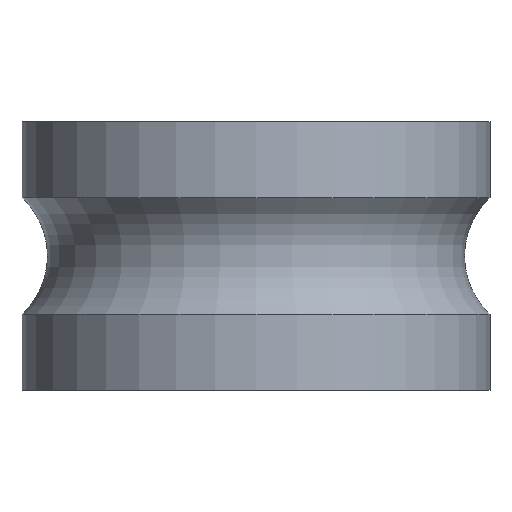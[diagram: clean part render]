
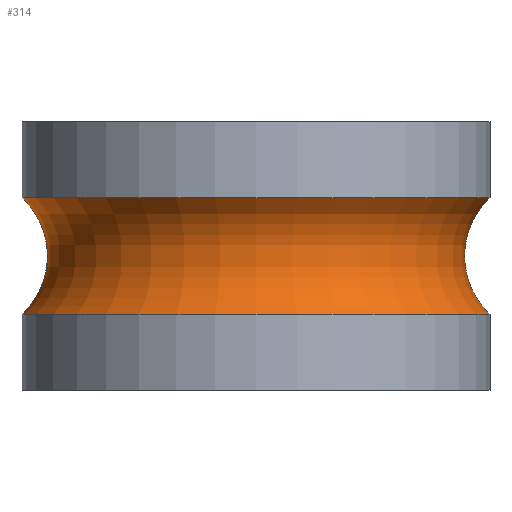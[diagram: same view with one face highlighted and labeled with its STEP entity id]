
A CAD part, front view. The second image highlights one B-rep face of the part: STEP entity #314.
In plain terms, the highlighted toroidal (fillet/blend) face has major radius 7.5 mm and minor radius 2.064 mm.
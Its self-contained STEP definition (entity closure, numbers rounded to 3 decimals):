
#5=CARTESIAN_POINT('',(6.1,0.0,139.984));
#6=CARTESIAN_POINT('',(-6.1,0.0,139.984));
#7=CARTESIAN_POINT('',(5.436,0.0,141.5));
#8=CARTESIAN_POINT('',(-5.436,0.0,141.5));
#9=CARTESIAN_POINT('',(6.1,0.0,143.016));
#10=CARTESIAN_POINT('',(-6.1,0.0,143.016));
#45=CARTESIAN_POINT('',(0.0,0.0,139.984));
#46=DIRECTION('',(0.0,0.0,1.0));
#47=DIRECTION('',(1.0,0.0,0.0));
#48=AXIS2_PLACEMENT_3D('',#45,#46,#47);
#49=CIRCLE('',#48,6.1);
#50=TRIMMED_CURVE('',#49,(#6),(#5),.T.,.CARTESIAN.);
#57=CARTESIAN_POINT('',(0.0,0.0,143.016));
#58=DIRECTION('',(0.0,0.0,1.0));
#59=DIRECTION('',(1.0,0.0,0.0));
#60=AXIS2_PLACEMENT_3D('',#57,#58,#59);
#61=CIRCLE('',#60,6.1);
#62=TRIMMED_CURVE('',#61,(#10),(#9),.T.,.CARTESIAN.);
#99=CARTESIAN_POINT('',(6.1,0.0,139.984));
#100=CARTESIAN_POINT('',(5.436,0.0,140.596));
#101=CARTESIAN_POINT('',(5.436,0.0,141.5));
#102=(BOUNDED_CURVE()B_SPLINE_CURVE(2,(#99,#100,#101),.UNSPECIFIED.,.F.,.F.)B_SPLINE_CURVE_WITH_KNOTS((3,3),(0.,1.),.PIECEWISE_BEZIER_KNOTS.)CURVE()GEOMETRIC_REPRESENTATION_ITEM()RATIONAL_B_SPLINE_CURVE((1.0,0.916,1.0))REPRESENTATION_ITEM(''));
#103=CARTESIAN_POINT('',(-6.1,0.0,139.984));
#104=CARTESIAN_POINT('',(-5.436,0.0,140.596));
#105=CARTESIAN_POINT('',(-5.436,0.0,141.5));
#106=(BOUNDED_CURVE()B_SPLINE_CURVE(2,(#103,#104,#105),.UNSPECIFIED.,.F.,.F.)B_SPLINE_CURVE_WITH_KNOTS((3,3),(0.,1.),.PIECEWISE_BEZIER_KNOTS.)CURVE()GEOMETRIC_REPRESENTATION_ITEM()RATIONAL_B_SPLINE_CURVE((1.0,0.916,1.0))REPRESENTATION_ITEM(''));
#107=CARTESIAN_POINT('',(5.436,0.0,141.5));
#108=CARTESIAN_POINT('',(5.436,0.0,142.404));
#109=CARTESIAN_POINT('',(6.1,0.0,143.016));
#110=(BOUNDED_CURVE()B_SPLINE_CURVE(2,(#107,#108,#109),.UNSPECIFIED.,.F.,.F.)B_SPLINE_CURVE_WITH_KNOTS((3,3),(0.,1.),.PIECEWISE_BEZIER_KNOTS.)CURVE()GEOMETRIC_REPRESENTATION_ITEM()RATIONAL_B_SPLINE_CURVE((1.0,0.916,1.0))REPRESENTATION_ITEM(''));
#111=CARTESIAN_POINT('',(-5.436,0.0,141.5));
#112=CARTESIAN_POINT('',(-5.436,0.0,142.404));
#113=CARTESIAN_POINT('',(-6.1,0.0,143.016));
#114=(BOUNDED_CURVE()B_SPLINE_CURVE(2,(#111,#112,#113),.UNSPECIFIED.,.F.,.F.)B_SPLINE_CURVE_WITH_KNOTS((3,3),(0.,1.),.PIECEWISE_BEZIER_KNOTS.)CURVE()GEOMETRIC_REPRESENTATION_ITEM()RATIONAL_B_SPLINE_CURVE((1.0,0.916,1.0))REPRESENTATION_ITEM(''));
#158=CARTESIAN_POINT('',(0.0,0.0,141.5));
#159=DIRECTION('',(0.0,0.0,1.0));
#160=DIRECTION('',(0.0,-1.0,0.0));
#161=AXIS2_PLACEMENT_3D('',#158,#159,#160);
#162=TOROIDAL_SURFACE('',#161,7.5,2.064);
#197=VERTEX_POINT('',#5);
#198=VERTEX_POINT('',#6);
#199=VERTEX_POINT('',#7);
#200=VERTEX_POINT('',#8);
#201=VERTEX_POINT('',#9);
#202=VERTEX_POINT('',#10);
#212=EDGE_CURVE('',#198,#197,#50,.T.);
#214=EDGE_CURVE('',#202,#201,#62,.T.);
#223=EDGE_CURVE('',#197,#199,#102,.T.);
#224=EDGE_CURVE('',#198,#200,#106,.T.);
#225=EDGE_CURVE('',#199,#201,#110,.T.);
#226=EDGE_CURVE('',#200,#202,#114,.T.);
#255=ORIENTED_EDGE('',*,*,#212,.T.);
#256=ORIENTED_EDGE('',*,*,#223,.T.);
#257=ORIENTED_EDGE('',*,*,#225,.T.);
#258=ORIENTED_EDGE('',*,*,#214,.F.);
#259=ORIENTED_EDGE('',*,*,#226,.F.);
#260=ORIENTED_EDGE('',*,*,#224,.F.);
#290=EDGE_LOOP('',(#255,#256,#257,#258,#259,#260));
#302=FACE_OUTER_BOUND('',#290,.T.);
#314=ADVANCED_FACE('',(#302),#162,.F.);
